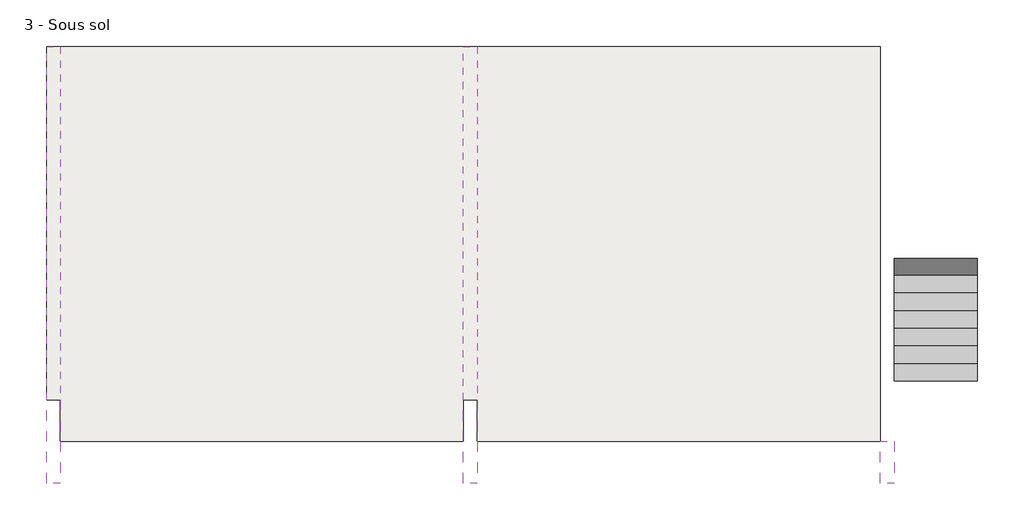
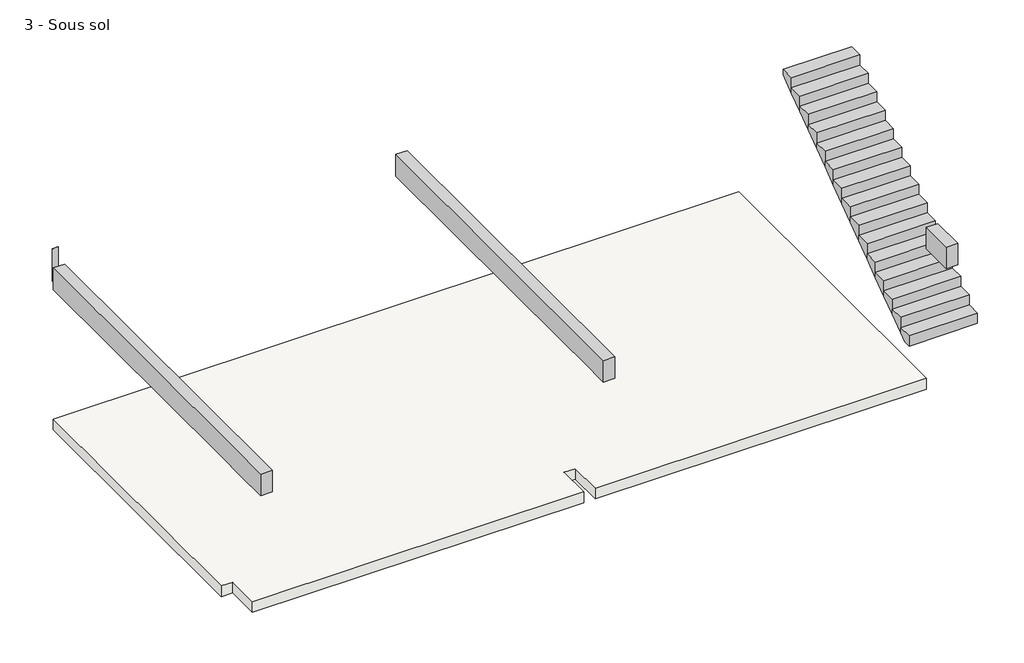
# One storey: 3 beams, 1 slab, 1 stair flight.
"""IFC4 building model written with IfcOpenShell, lengths in millimetres."""

from ifc_helpers import new_model, si_unit, frame, origin, place, context, project, spatial, polyline, outline, extrude, faceted_brep, element, save

model = new_model("IFC4")

# Units and contexts
model_context = context("Model", 3, world=origin())
ifc_project = project(units=[si_unit("LENGTHUNIT", "METRE", prefix="MILLI")], contexts=[model_context])

# Site, building, storey
site = spatial("IfcSite", under=ifc_project)
building = spatial("IfcBuilding", under=site)
storey = spatial("IfcBuildingStorey", under=building, Name="3 - Sous sol", Elevation=0.0)

# Beams
placement = place(None, origin())
element("IfcBeam", 1, ObjectType="Poutre rectangulaire - Béton : 200 x 600 mm 2", at=placement, inside=storey, context=model_context, shape_type="Brep", body=[
    faceted_brep([(-5173.7146801, 5528.3158898, 2400.0), (-5173.7146801, 428.3158898, 2400.0), (-5173.7146801, -171.6841102, 2400.0), (-5173.7146801, -771.6841102, 2400.0), (-5173.7146801, -771.6841102, 2800.0), (-5173.7146801, -171.6841102, 2800.0), (-5173.7146801, 5528.3158898, 2800.0), (-4973.7146801, -771.6841102, 2400.0), (-4973.7146801, 5528.3158898, 2400.0), (-4973.7146801, 428.3158898, 2400.0), (-4973.7146801, -171.6841102, 2400.0), (-4973.7146801, 5528.3158898, 2800.0), (-4973.7146801, -771.6841102, 2800.0)], [[[0, 1, 2, 3, 4, 5, 6]], [[7, 3, 2, 1, 0, 8, 9, 10]], [[7, 10, 9, 8, 11, 12]], [[3, 7, 12, 4]], [[8, 0, 6, 11]], [[5, 4, 12, 11, 6]]]),
    faceted_brep([(-4973.7146801, 5730.7087981, 3000.0), (-4973.7146801, 5730.7087981, 2400.0), (-5073.7146801, 5730.7087981, 2400.0), (-5073.7146801, 5730.7087981, 3000.0), (-5073.7146801, 5728.3158898, 2400.0), (-5073.7146801, 5728.3158898, 3000.0), (-4973.7146801, 5728.3158898, 2400.0), (-4973.7146801, 5728.3158898, 3000.0)], [[[0, 1, 2, 3]], [[3, 2, 4, 5]], [[4, 6, 7, 5]], [[2, 1, 6, 4]], [[1, 0, 7, 6]], [[0, 3, 5, 7]]]),
])
element("IfcBeam", 2, ObjectType="Poutre rectangulaire - Béton : 200 x 600 mm 2", at=placement, inside=storey, context=model_context, shape_type="Brep", body=[
    faceted_brep([(836.2853199, 5528.3158898, 2400.0), (836.2853199, 428.3158898, 2400.0), (836.2853199, -171.6841102, 2400.0), (836.2853199, -771.6841102, 2400.0), (836.2853199, -771.6841102, 2800.0), (836.2853199, 5528.3158898, 2800.0), (1036.2853199, -771.6841102, 2400.0), (1036.2853199, 5528.3158898, 2400.0), (1036.2853199, 428.3158898, 2400.0), (1036.2853199, -171.6841102, 2400.0), (1036.2853199, 5528.3158898, 2800.0), (1036.2853199, -771.6841102, 2800.0)], [[[0, 1, 2, 3, 4, 5]], [[6, 3, 2, 1, 0, 7, 8, 9]], [[6, 9, 8, 7, 10, 11]], [[3, 6, 11, 4]], [[7, 0, 5, 10]], [[5, 4, 11, 10]]]),
])
element("IfcBeam", 3, ObjectType="Poutre rectangulaire - Béton : 200 x 600 mm 2", at=placement, inside=storey, context=model_context, shape_type="SweptSolid", body=[
    extrude(outline(polyline([(7046.2853199, -771.6841102), (6846.2853199, -771.6841102), (6846.2853199, -171.6841102), (7046.2853199, -171.6841102), (7046.2853199, -771.6841102)])), frame((0.0, 0.0, 2400.0), z_axis=(0.0, 0.0, 1.0), x_axis=(1.0, 0.0, 0.0)), (0.0, 0.0, 1.0), 400.0),
])

# Slab
element("IfcSlab", 4, ObjectType="Dalle en béton - 200 mm", at=placement, inside=storey, context=model_context, shape_type="Brep", body=[
    faceted_brep([(-4973.7146801, 428.3158898, -200.0), (-5173.7146801, 428.3158898, -200.0), (-5173.7146801, 5528.3158898, -200.0), (-4973.7146801, 5528.3158898, -200.0), (836.2853199, 5528.3158898, -200.0), (1036.2853199, 5528.3158898, -200.0), (6846.2853199, 5528.3158898, -200.0), (6846.2853199, -171.6841102, -200.0), (1036.2853199, -171.6841102, -200.0), (1036.2853199, 428.3158898, -200.0), (836.2853199, 428.3158898, -200.0), (836.2853199, -171.6841102, -200.0), (-4973.7146801, -171.6841102, -200.0), (-4973.7146801, 428.3158898, 0.0), (-4973.7146801, -171.6841102, 0.0), (836.2853199, -171.6841102, 0.0), (836.2853199, 428.3158898, 0.0), (1036.2853199, 428.3158898, 0.0), (1036.2853199, -171.6841102, 0.0), (6846.2853199, -171.6841102, 0.0), (6846.2853199, 5528.3158898, 0.0), (-5173.7146801, 5528.3158898, 0.0), (-5173.7146801, 428.3158898, 0.0)], [[[0, 1, 2, 3, 4, 5, 6, 7, 8, 9, 10, 11, 12]], [[13, 14, 15, 16, 17, 18, 19, 20, 21, 22]], [[1, 0, 13, 22]], [[2, 1, 22, 21]], [[6, 5, 4, 3, 2, 21, 20]], [[7, 6, 20, 19]], [[8, 7, 19, 18]], [[9, 8, 18, 17]], [[10, 9, 17, 16]], [[11, 10, 16, 15]], [[12, 11, 15, 14]], [[0, 12, 14, 13]]]),
])

# Stair flight
element("IfcStairFlight", 5, ObjectType="Profondeur de structure 80 mm", at=placement, inside=storey, context=model_context, shape_type="Brep", body=[
    faceted_brep([(7046.2853199, 958.3158898, 187.5), (7046.2853199, 703.3158898, 187.5), (8246.2853199, 703.3158898, 187.5), (8246.2853199, 958.3158898, 187.5), (7046.2853199, 958.3158898, 88.2014219), (7046.2853199, 838.361956, 0.0), (7046.2853199, 703.3158898, 0.0), (8246.2853199, 703.3158898, 0.0), (8246.2853199, 838.361956, 0.0), (8246.2853199, 958.3158898, 88.2014219), (7046.2853199, 1213.3158898, 375.0), (7046.2853199, 958.3158898, 375.0), (8246.2853199, 958.3158898, 375.0), (8246.2853199, 1213.3158898, 375.0), (7046.2853199, 1213.3158898, 275.7014219), (8246.2853199, 1213.3158898, 275.7014219), (7046.2853199, 1468.3158898, 562.5), (7046.2853199, 1213.3158898, 562.5), (8246.2853199, 1213.3158898, 562.5), (8246.2853199, 1468.3158898, 562.5), (7046.2853199, 1468.3158898, 463.2014219), (8246.2853199, 1468.3158898, 463.2014219), (7046.2853199, 1723.3158898, 750.0), (7046.2853199, 1468.3158898, 750.0), (8246.2853199, 1468.3158898, 750.0), (8246.2853199, 1723.3158898, 750.0), (7046.2853199, 1723.3158898, 650.7014219), (8246.2853199, 1723.3158898, 650.7014219), (7046.2853199, 1978.3158898, 937.5), (7046.2853199, 1723.3158898, 937.5), (8246.2853199, 1723.3158898, 937.5), (8246.2853199, 1978.3158898, 937.5), (7046.2853199, 1978.3158898, 838.2014219), (8246.2853199, 1978.3158898, 838.2014219), (7046.2853199, 2233.3158898, 1125.0), (7046.2853199, 1978.3158898, 1125.0), (8246.2853199, 1978.3158898, 1125.0), (8246.2853199, 2233.3158898, 1125.0), (7046.2853199, 2233.3158898, 1025.7014219), (8246.2853199, 2233.3158898, 1025.7014219), (7046.2853199, 2488.3158898, 1312.5), (7046.2853199, 2233.3158898, 1312.5), (8246.2853199, 2233.3158898, 1312.5), (8246.2853199, 2488.3158898, 1312.5), (7046.2853199, 2488.3158898, 1213.2014219), (8246.2853199, 2488.3158898, 1213.2014219), (7046.2853199, 2743.3158898, 1500.0), (7046.2853199, 2488.3158898, 1500.0), (8246.2853199, 2488.3158898, 1500.0), (8246.2853199, 2743.3158898, 1500.0), (7046.2853199, 2743.3158898, 1400.7014219), (8246.2853199, 2743.3158898, 1400.7014219), (7046.2853199, 2998.3158898, 1687.5), (7046.2853199, 2743.3158898, 1687.5), (8246.2853199, 2743.3158898, 1687.5), (8246.2853199, 2998.3158898, 1687.5), (7046.2853199, 2998.3158898, 1588.2014219), (8246.2853199, 2998.3158898, 1588.2014219), (7046.2853199, 3253.3158898, 1875.0), (7046.2853199, 2998.3158898, 1875.0), (8246.2853199, 2998.3158898, 1875.0), (8246.2853199, 3253.3158898, 1875.0), (7046.2853199, 3253.3158898, 1775.7014219), (8246.2853199, 3253.3158898, 1775.7014219), (7046.2853199, 3508.3158898, 2062.5), (7046.2853199, 3253.3158898, 2062.5), (8246.2853199, 3253.3158898, 2062.5), (8246.2853199, 3508.3158898, 2062.5), (7046.2853199, 3508.3158898, 1963.2014219), (8246.2853199, 3508.3158898, 1963.2014219), (7046.2853199, 3763.3158898, 2250.0), (7046.2853199, 3508.3158898, 2250.0), (8246.2853199, 3508.3158898, 2250.0), (8246.2853199, 3763.3158898, 2250.0), (7046.2853199, 3763.3158898, 2150.7014219), (8246.2853199, 3763.3158898, 2150.7014219), (7046.2853199, 4018.3158898, 2437.5), (7046.2853199, 3763.3158898, 2437.5), (8246.2853199, 3763.3158898, 2437.5), (8246.2853199, 4018.3158898, 2437.5), (7046.2853199, 4018.3158898, 2338.2014219), (8246.2853199, 4018.3158898, 2338.2014219), (7046.2853199, 4273.3158898, 2625.0), (7046.2853199, 4018.3158898, 2625.0), (8246.2853199, 4018.3158898, 2625.0), (8246.2853199, 4273.3158898, 2625.0), (7046.2853199, 4273.3158898, 2525.7014219), (8246.2853199, 4273.3158898, 2525.7014219), (7046.2853199, 4528.3158898, 2812.5), (7046.2853199, 4273.3158898, 2812.5), (8246.2853199, 4273.3158898, 2812.5), (8246.2853199, 4528.3158898, 2812.5), (7046.2853199, 4528.3158898, 2713.2014219), (8246.2853199, 4528.3158898, 2713.2014219)], [[[0, 1, 2, 3]], [[1, 0, 4, 5, 6]], [[2, 1, 6, 7]], [[3, 2, 7, 8, 9]], [[10, 11, 12, 13]], [[11, 10, 14, 4, 0]], [[0, 3, 12, 11]], [[13, 12, 3, 9, 15]], [[16, 17, 18, 19]], [[17, 16, 20, 14, 10]], [[10, 13, 18, 17]], [[19, 18, 13, 15, 21]], [[22, 23, 24, 25]], [[23, 22, 26, 20, 16]], [[16, 19, 24, 23]], [[25, 24, 19, 21, 27]], [[28, 29, 30, 31]], [[29, 28, 32, 26, 22]], [[22, 25, 30, 29]], [[31, 30, 25, 27, 33]], [[34, 35, 36, 37]], [[35, 34, 38, 32, 28]], [[28, 31, 36, 35]], [[37, 36, 31, 33, 39]], [[40, 41, 42, 43]], [[41, 40, 44, 38, 34]], [[34, 37, 42, 41]], [[43, 42, 37, 39, 45]], [[46, 47, 48, 49]], [[47, 46, 50, 44, 40]], [[40, 43, 48, 47]], [[49, 48, 43, 45, 51]], [[52, 53, 54, 55]], [[53, 52, 56, 50, 46]], [[46, 49, 54, 53]], [[55, 54, 49, 51, 57]], [[58, 59, 60, 61]], [[59, 58, 62, 56, 52]], [[52, 55, 60, 59]], [[61, 60, 55, 57, 63]], [[64, 65, 66, 67]], [[65, 64, 68, 62, 58]], [[58, 61, 66, 65]], [[67, 66, 61, 63, 69]], [[70, 71, 72, 73]], [[71, 70, 74, 68, 64]], [[64, 67, 72, 71]], [[73, 72, 67, 69, 75]], [[76, 77, 78, 79]], [[77, 76, 80, 74, 70]], [[70, 73, 78, 77]], [[79, 78, 73, 75, 81]], [[82, 83, 84, 85]], [[83, 82, 86, 80, 76]], [[76, 79, 84, 83]], [[85, 84, 79, 81, 87]], [[88, 89, 90, 91]], [[89, 88, 92, 86, 82]], [[82, 85, 90, 89]], [[91, 90, 85, 87, 93]], [[88, 91, 93, 92]], [[7, 6, 5, 8]], [[8, 5, 4, 14, 20, 26, 32, 38, 44, 50, 56, 62, 68, 74, 80, 86, 92, 93, 87, 81, 75, 69, 63, 57, 51, 45, 39, 33, 27, 21, 15, 9]]]),
])

save(model, "model.ifc")
